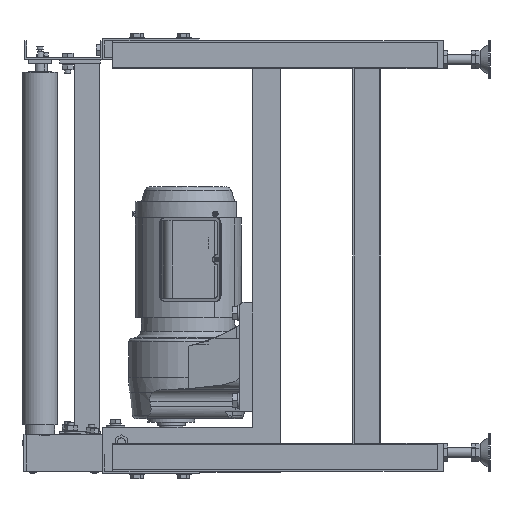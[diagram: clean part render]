
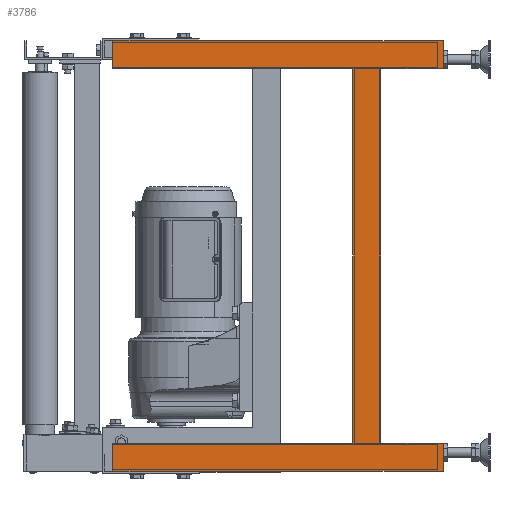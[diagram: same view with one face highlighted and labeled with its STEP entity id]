
A CAD part, left-side view. The second image highlights one B-rep face of the part: STEP entity #3786.
In plain terms, the highlighted planar face has unit normal (-1, 0, 0).
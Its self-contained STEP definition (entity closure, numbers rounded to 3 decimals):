
#3786=ADVANCED_FACE('',(#35526),#35525,.T.);
#35525=PLANE('',#59353);
#35526=FACE_OUTER_BOUND('',#59354,.T.);
#59350=CARTESIAN_POINT('',(62.5,-134.,355.));
#59351=DIRECTION('',(-1.,0.,0.));
#59352=DIRECTION('',(0.,0.,-1.));
#59353=AXIS2_PLACEMENT_3D('',#59350,#59351,#59352);
#59354=EDGE_LOOP('',(#78643,#78644,#78645,#78646,#78647,#78648,#78649,#78650,#78651,#78652,#78653,#78654,#78655,#78656,#78657,#78658,#78659,#78660));
#78643=ORIENTED_EDGE('',*,*,#89852,.F.);
#78644=ORIENTED_EDGE('',*,*,#89928,.F.);
#78645=ORIENTED_EDGE('',*,*,#89849,.F.);
#78646=ORIENTED_EDGE('',*,*,#90035,.F.);
#78647=ORIENTED_EDGE('',*,*,#89944,.T.);
#78648=ORIENTED_EDGE('',*,*,#89941,.T.);
#78649=ORIENTED_EDGE('',*,*,#89963,.T.);
#78650=ORIENTED_EDGE('',*,*,#89969,.F.);
#78651=ORIENTED_EDGE('',*,*,#90036,.F.);
#78652=ORIENTED_EDGE('',*,*,#90037,.F.);
#78653=ORIENTED_EDGE('',*,*,#89707,.F.);
#78654=ORIENTED_EDGE('',*,*,#90038,.F.);
#78655=ORIENTED_EDGE('',*,*,#89704,.F.);
#78656=ORIENTED_EDGE('',*,*,#89982,.T.);
#78657=ORIENTED_EDGE('',*,*,#89974,.F.);
#78658=ORIENTED_EDGE('',*,*,#89977,.F.);
#78659=ORIENTED_EDGE('',*,*,#90039,.T.);
#78660=ORIENTED_EDGE('',*,*,#89936,.F.);
#89704=EDGE_CURVE('',#139766,#139767,#139768,.T.);
#89707=EDGE_CURVE('',#139781,#139788,#139789,.T.);
#89849=EDGE_CURVE('',#140676,#140736,#140737,.T.);
#89852=EDGE_CURVE('',#140750,#140690,#140757,.T.);
#89928=EDGE_CURVE('',#140736,#140750,#141260,.T.);
#89936=EDGE_CURVE('',#140690,#141266,#141314,.T.);
#89941=EDGE_CURVE('',#141348,#141341,#141349,.T.);
#89944=EDGE_CURVE('',#141368,#141348,#141369,.T.);
#89963=EDGE_CURVE('',#141341,#141488,#141495,.T.);
#89969=EDGE_CURVE('',#141528,#141488,#141535,.T.);
#89974=EDGE_CURVE('',#141562,#141569,#141570,.T.);
#89977=EDGE_CURVE('',#141589,#141562,#141590,.T.);
#89982=EDGE_CURVE('',#139766,#141569,#141621,.T.);
#90035=EDGE_CURVE('',#141368,#140676,#141966,.T.);
#90036=EDGE_CURVE('',#141972,#141528,#141973,.T.);
#90037=EDGE_CURVE('',#139788,#141972,#141979,.T.);
#90038=EDGE_CURVE('',#139767,#139781,#141985,.T.);
#90039=EDGE_CURVE('',#141589,#141266,#141991,.T.);
#139766=VERTEX_POINT('',#183005);
#139767=VERTEX_POINT('',#183006);
#139768=LINE('',#183007,#183008);
#139781=VERTEX_POINT('',#183015);
#139788=VERTEX_POINT('',#183020);
#139789=LINE('',#183021,#183022);
#140676=VERTEX_POINT('',#183546);
#140690=VERTEX_POINT('',#183554);
#140736=VERTEX_POINT('',#183581);
#140737=LINE('',#183582,#183583);
#140750=VERTEX_POINT('',#183590);
#140757=LINE('',#183595,#183596);
#141260=LINE('',#183879,#183880);
#141266=VERTEX_POINT('',#183882);
#141314=LINE('',#183909,#183910);
#141341=VERTEX_POINT('',#183924);
#141348=VERTEX_POINT('',#183928);
#141349=LINE('',#183929,#183930);
#141368=VERTEX_POINT('',#183939);
#141369=LINE('',#183940,#183941);
#141488=VERTEX_POINT('',#184007);
#141495=LINE('',#184011,#184012);
#141528=VERTEX_POINT('',#184029);
#141535=LINE('',#184033,#184034);
#141562=VERTEX_POINT('',#184048);
#141569=VERTEX_POINT('',#184052);
#141570=LINE('',#184053,#184054);
#141589=VERTEX_POINT('',#184063);
#141590=LINE('',#184064,#184065);
#141621=LINE('',#184080,#184081);
#141966=LINE('',#184272,#184273);
#141972=VERTEX_POINT('',#184275);
#141973=LINE('',#184276,#184277);
#141979=LINE('',#184279,#184280);
#141985=LINE('',#184282,#184283);
#141991=LINE('',#184285,#184286);
#183005=CARTESIAN_POINT('',(62.5,-144.,345.));
#183006=CARTESIAN_POINT('',(62.5,-187.768,345.));
#183007=CARTESIAN_POINT('',(62.5,-144.,345.));
#183008=VECTOR('',#183009,43.768);
#183009=DIRECTION('',(0.,-1.,0.));
#183015=CARTESIAN_POINT('',(62.5,-199.548,345.));
#183020=CARTESIAN_POINT('',(62.5,-284.,345.));
#183021=CARTESIAN_POINT('',(62.5,-199.548,345.));
#183022=VECTOR('',#183023,84.452);
#183023=DIRECTION('',(0.,-1.,0.));
#183546=CARTESIAN_POINT('',(62.5,-284.,-345.));
#183554=CARTESIAN_POINT('',(62.5,-144.,-345.));
#183581=CARTESIAN_POINT('',(62.5,-199.548,-345.));
#183582=CARTESIAN_POINT('',(62.5,-284.,-345.));
#183583=VECTOR('',#183584,84.452);
#183584=DIRECTION('',(0.,1.,0.));
#183590=CARTESIAN_POINT('',(62.5,-187.768,-345.));
#183595=CARTESIAN_POINT('',(62.5,-187.768,-345.));
#183596=VECTOR('',#183597,43.768);
#183597=DIRECTION('',(0.,1.,0.));
#183879=CARTESIAN_POINT('',(62.5,-199.548,-345.));
#183880=VECTOR('',#183881,11.78);
#183881=DIRECTION('',(0.,1.,0.));
#183882=CARTESIAN_POINT('',(62.5,-144.,-300.));
#183909=CARTESIAN_POINT('',(62.5,-144.,-345.));
#183910=VECTOR('',#183911,45.);
#183911=DIRECTION('',(0.,0.,1.));
#183924=CARTESIAN_POINT('',(62.5,-575.,-300.));
#183928=CARTESIAN_POINT('',(62.5,-675.,-300.));
#183929=CARTESIAN_POINT('',(62.5,-675.,-300.));
#183930=VECTOR('',#183931,100.);
#183931=DIRECTION('',(0.,1.,0.));
#183939=CARTESIAN_POINT('',(62.5,-675.,-345.));
#183940=CARTESIAN_POINT('',(62.5,-675.,-345.));
#183941=VECTOR('',#183942,45.);
#183942=DIRECTION('',(0.,0.,1.));
#184007=CARTESIAN_POINT('',(62.5,-575.,300.));
#184011=CARTESIAN_POINT('',(62.5,-575.,-300.));
#184012=VECTOR('',#184013,600.);
#184013=DIRECTION('',(0.,0.,1.));
#184029=CARTESIAN_POINT('',(62.5,-675.,300.));
#184033=CARTESIAN_POINT('',(62.5,-675.,300.));
#184034=VECTOR('',#184035,100.);
#184035=DIRECTION('',(0.,1.,0.));
#184048=CARTESIAN_POINT('',(62.5,-530.,300.));
#184052=CARTESIAN_POINT('',(62.5,-144.,300.));
#184053=CARTESIAN_POINT('',(62.5,-530.,300.));
#184054=VECTOR('',#184055,386.);
#184055=DIRECTION('',(0.,1.,0.));
#184063=CARTESIAN_POINT('',(62.5,-530.,-300.));
#184064=CARTESIAN_POINT('',(62.5,-530.,-300.));
#184065=VECTOR('',#184066,600.);
#184066=DIRECTION('',(0.,0.,1.));
#184080=CARTESIAN_POINT('',(62.5,-144.,345.));
#184081=VECTOR('',#184082,45.);
#184082=DIRECTION('',(0.,0.,-1.));
#184272=CARTESIAN_POINT('',(62.5,-675.,-345.));
#184273=VECTOR('',#184274,391.);
#184274=DIRECTION('',(0.,1.,0.));
#184275=CARTESIAN_POINT('',(62.5,-675.,345.));
#184276=CARTESIAN_POINT('',(62.5,-675.,345.));
#184277=VECTOR('',#184278,45.);
#184278=DIRECTION('',(0.,0.,-1.));
#184279=CARTESIAN_POINT('',(62.5,-284.,345.));
#184280=VECTOR('',#184281,391.);
#184281=DIRECTION('',(0.,-1.,0.));
#184282=CARTESIAN_POINT('',(62.5,-187.768,345.));
#184283=VECTOR('',#184284,11.78);
#184284=DIRECTION('',(0.,-1.,0.));
#184285=CARTESIAN_POINT('',(62.5,-530.,-300.));
#184286=VECTOR('',#184287,386.);
#184287=DIRECTION('',(0.,1.,0.));
